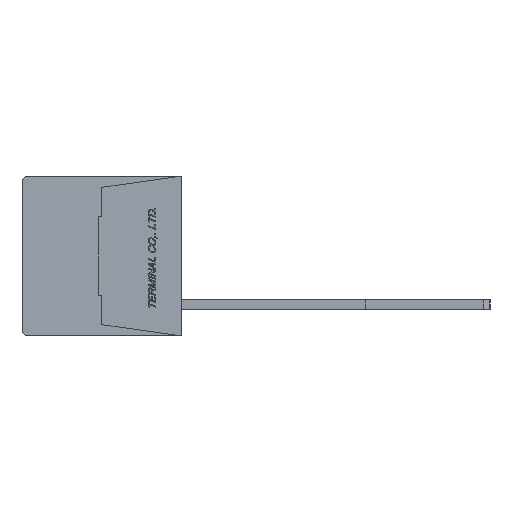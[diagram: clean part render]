
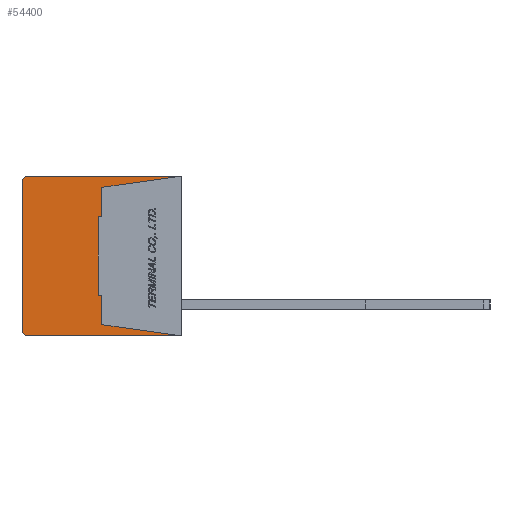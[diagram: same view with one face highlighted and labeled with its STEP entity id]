
A CAD part, left-side view. The second image highlights one B-rep face of the part: STEP entity #54400.
In plain terms, the highlighted planar face has unit normal (-1, 0, 0).
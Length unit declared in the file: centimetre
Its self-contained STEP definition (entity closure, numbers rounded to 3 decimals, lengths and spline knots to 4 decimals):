
#2732=CIRCLE('',#93149,0.05);
#2733=CIRCLE('',#93152,0.05);
#4760=VERTEX_POINT('',#75415);
#4761=VERTEX_POINT('',#75417);
#4762=VERTEX_POINT('',#75421);
#4763=VERTEX_POINT('',#75425);
#4764=VERTEX_POINT('',#75429);
#4765=VERTEX_POINT('',#75433);
#4766=VERTEX_POINT('',#75437);
#4767=VERTEX_POINT('',#75439);
#4768=VERTEX_POINT('',#75441);
#4769=VERTEX_POINT('',#75443);
#4770=VERTEX_POINT('',#75445);
#4771=VERTEX_POINT('',#75447);
#10510=VECTOR('',#63158,1.);
#10514=VECTOR('',#63167,1.);
#10517=VECTOR('',#63175,1.);
#10518=VECTOR('',#63177,1.);
#10519=VECTOR('',#63178,1.);
#10520=VECTOR('',#63179,1.);
#10521=VECTOR('',#63180,1.);
#10522=VECTOR('',#63181,1.);
#10523=VECTOR('',#63182,1.);
#10524=VECTOR('',#63183,1.);
#16894=LINE('',#75416,#10510);
#16898=LINE('',#75426,#10514);
#16901=LINE('',#75434,#10517);
#16902=LINE('',#75436,#10518);
#16903=LINE('',#75438,#10519);
#16904=LINE('',#75440,#10520);
#16905=LINE('',#75442,#10521);
#16906=LINE('',#75444,#10522);
#16907=LINE('',#75446,#10523);
#16908=LINE('',#75448,#10524);
#24010=EDGE_CURVE('',#4761,#4760,#16894,.T.);
#24013=EDGE_CURVE('',#4762,#4760,#2732,.T.);
#24015=EDGE_CURVE('',#4762,#4763,#16898,.T.);
#24017=EDGE_CURVE('',#4764,#4763,#2733,.T.);
#24019=EDGE_CURVE('',#4764,#4765,#16901,.T.);
#24020=EDGE_CURVE('',#4766,#4761,#16902,.T.);
#24021=EDGE_CURVE('',#4765,#4767,#16903,.T.);
#24022=EDGE_CURVE('',#4767,#4768,#16904,.T.);
#24023=EDGE_CURVE('',#4768,#4769,#16905,.T.);
#24024=EDGE_CURVE('',#4769,#4770,#16906,.T.);
#24025=EDGE_CURVE('',#4770,#4771,#16907,.T.);
#24026=EDGE_CURVE('',#4771,#4766,#16908,.T.);
#35003=ORIENTED_EDGE('',*,*,#24020,.T.);
#35004=ORIENTED_EDGE('',*,*,#24010,.T.);
#35005=ORIENTED_EDGE('',*,*,#24013,.F.);
#35006=ORIENTED_EDGE('',*,*,#24015,.T.);
#35007=ORIENTED_EDGE('',*,*,#24017,.F.);
#35008=ORIENTED_EDGE('',*,*,#24019,.T.);
#35009=ORIENTED_EDGE('',*,*,#24021,.T.);
#35010=ORIENTED_EDGE('',*,*,#24022,.T.);
#35011=ORIENTED_EDGE('',*,*,#24023,.T.);
#35012=ORIENTED_EDGE('',*,*,#24024,.T.);
#35013=ORIENTED_EDGE('',*,*,#24025,.T.);
#35014=ORIENTED_EDGE('',*,*,#24026,.T.);
#47336=EDGE_LOOP('',(#35003,#35004,#35005,#35006,#35007,#35008,#35009,#35010,
#35011,#35012,#35013,#35014));
#50956=FACE_BOUND('',#47336,.T.);
#54400=ADVANCED_FACE('',(#50956),#57392,.F.);
#57392=PLANE('',#93154);
#63158=DIRECTION('',(0.,1.,0.));
#63163=DIRECTION('',(1.,0.,0.));
#63164=DIRECTION('',(0.,0.,-0.05));
#63167=DIRECTION('',(0.,0.,-1.));
#63171=DIRECTION('',(1.,0.,0.));
#63172=DIRECTION('',(0.,0.,-0.05));
#63175=DIRECTION('',(0.,-1.,0.));
#63176=DIRECTION('',(1.,0.,0.));
#63177=DIRECTION('',(0.,-0.99,0.139));
#63178=DIRECTION('',(0.,0.99,0.139));
#63179=DIRECTION('',(0.,0.,1.));
#63180=DIRECTION('',(0.,1.,0.));
#63181=DIRECTION('',(0.,0.,1.));
#63182=DIRECTION('',(0.,-1.,0.));
#63183=DIRECTION('',(0.,0.,1.));
#75415=CARTESIAN_POINT('',(-1.,1.23,0.64));
#75416=CARTESIAN_POINT('',(-1.,0.,0.64));
#75417=CARTESIAN_POINT('',(-1.,0.,0.64));
#75421=CARTESIAN_POINT('',(-1.,1.28,0.59));
#75422=CARTESIAN_POINT('',(-1.,1.23,0.59));
#75425=CARTESIAN_POINT('',(-1.,1.28,-0.59));
#75426=CARTESIAN_POINT('',(-1.,1.28,0.59));
#75429=CARTESIAN_POINT('',(-1.,1.23,-0.64));
#75430=CARTESIAN_POINT('',(-1.,1.23,-0.59));
#75433=CARTESIAN_POINT('',(-1.,0.,-0.64));
#75434=CARTESIAN_POINT('',(-1.,1.23,-0.64));
#75435=CARTESIAN_POINT('',(-1.,0.6345,0.));
#75436=CARTESIAN_POINT('',(-1.,0.64,0.55));
#75437=CARTESIAN_POINT('',(-1.,0.64,0.55));
#75438=CARTESIAN_POINT('',(-1.,0.,-0.64));
#75439=CARTESIAN_POINT('',(-1.,0.64,-0.55));
#75440=CARTESIAN_POINT('',(-1.,0.64,-0.55));
#75441=CARTESIAN_POINT('',(-1.,0.64,-0.315));
#75442=CARTESIAN_POINT('',(-1.,0.64,-0.315));
#75443=CARTESIAN_POINT('',(-1.,0.67,-0.315));
#75444=CARTESIAN_POINT('',(-1.,0.67,-0.315));
#75445=CARTESIAN_POINT('',(-1.,0.67,0.315));
#75446=CARTESIAN_POINT('',(-1.,0.67,0.315));
#75447=CARTESIAN_POINT('',(-1.,0.64,0.315));
#75448=CARTESIAN_POINT('',(-1.,0.64,0.315));
#93149=AXIS2_PLACEMENT_3D('',#75422,#63163,#63164);
#93152=AXIS2_PLACEMENT_3D('',#75430,#63171,#63172);
#93154=AXIS2_PLACEMENT_3D('',#75435,#63176,$);
